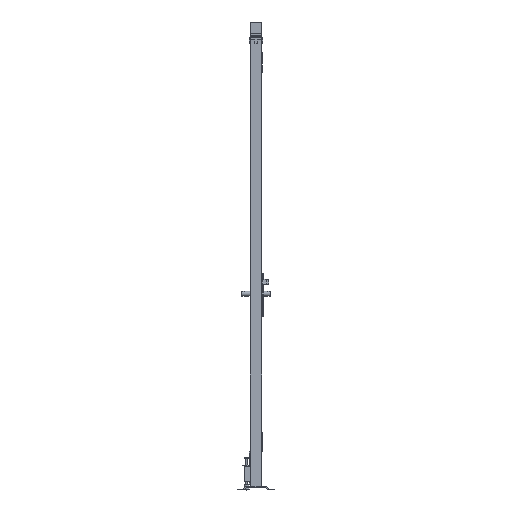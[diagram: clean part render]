
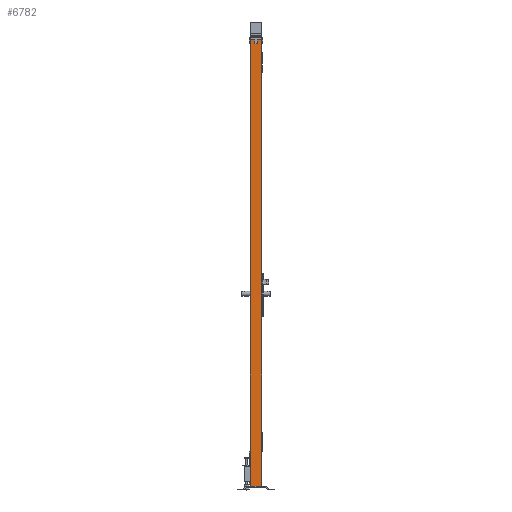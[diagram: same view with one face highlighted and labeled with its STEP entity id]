
A CAD part, left-side view. The second image highlights one B-rep face of the part: STEP entity #6782.
In plain terms, the highlighted planar face has unit normal (-1, 0, 0).
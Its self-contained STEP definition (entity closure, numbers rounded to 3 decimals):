
#981=FACE_OUTER_BOUND('',#1334,.T.);
#1334=EDGE_LOOP('',(#5174,#5175,#5176,#5177));
#1847=LINE('',#10055,#2636);
#1851=LINE('',#10064,#2640);
#1853=LINE('',#10067,#2642);
#1855=LINE('',#10070,#2644);
#2636=VECTOR('',#8059,1.);
#2640=VECTOR('',#8065,1.);
#2642=VECTOR('',#8069,1.);
#2644=VECTOR('',#8073,1.);
#3359=VERTEX_POINT('',#10052);
#3360=VERTEX_POINT('',#10054);
#3363=VERTEX_POINT('',#10061);
#3364=VERTEX_POINT('',#10063);
#4061=EDGE_CURVE('',#3359,#3360,#1847,.T.);
#4065=EDGE_CURVE('',#3363,#3364,#1851,.T.);
#4067=EDGE_CURVE('',#3360,#3363,#1853,.T.);
#4069=EDGE_CURVE('',#3359,#3364,#1855,.T.);
#5174=ORIENTED_EDGE('',*,*,#4069,.T.);
#5175=ORIENTED_EDGE('',*,*,#4065,.F.);
#5176=ORIENTED_EDGE('',*,*,#4067,.F.);
#5177=ORIENTED_EDGE('',*,*,#4061,.F.);
#6508=PLANE('',#7190);
#6782=ADVANCED_FACE('',(#981),#6508,.F.);
#7190=AXIS2_PLACEMENT_3D('',#10069,#8071,#8072);
#8059=DIRECTION('',(0.,-1.,0.));
#8065=DIRECTION('',(0.,1.,0.));
#8069=DIRECTION('',(0.,0.,-1.));
#8071=DIRECTION('center_axis',(1.,0.,0.));
#8072=DIRECTION('ref_axis',(0.,0.,-1.));
#8073=DIRECTION('',(0.,0.,-1.));
#10052=CARTESIAN_POINT('',(-30.,30.,2320.));
#10054=CARTESIAN_POINT('',(-30.,-30.,2320.));
#10055=CARTESIAN_POINT('',(-30.,0.,2320.));
#10061=CARTESIAN_POINT('',(-30.,-30.,20.));
#10063=CARTESIAN_POINT('',(-30.,30.,20.));
#10064=CARTESIAN_POINT('',(-30.,0.,20.));
#10067=CARTESIAN_POINT('',(-30.,-30.,1170.));
#10069=CARTESIAN_POINT('Origin',(-30.,0.,
1170.));
#10070=CARTESIAN_POINT('',(-30.,30.,1170.));
